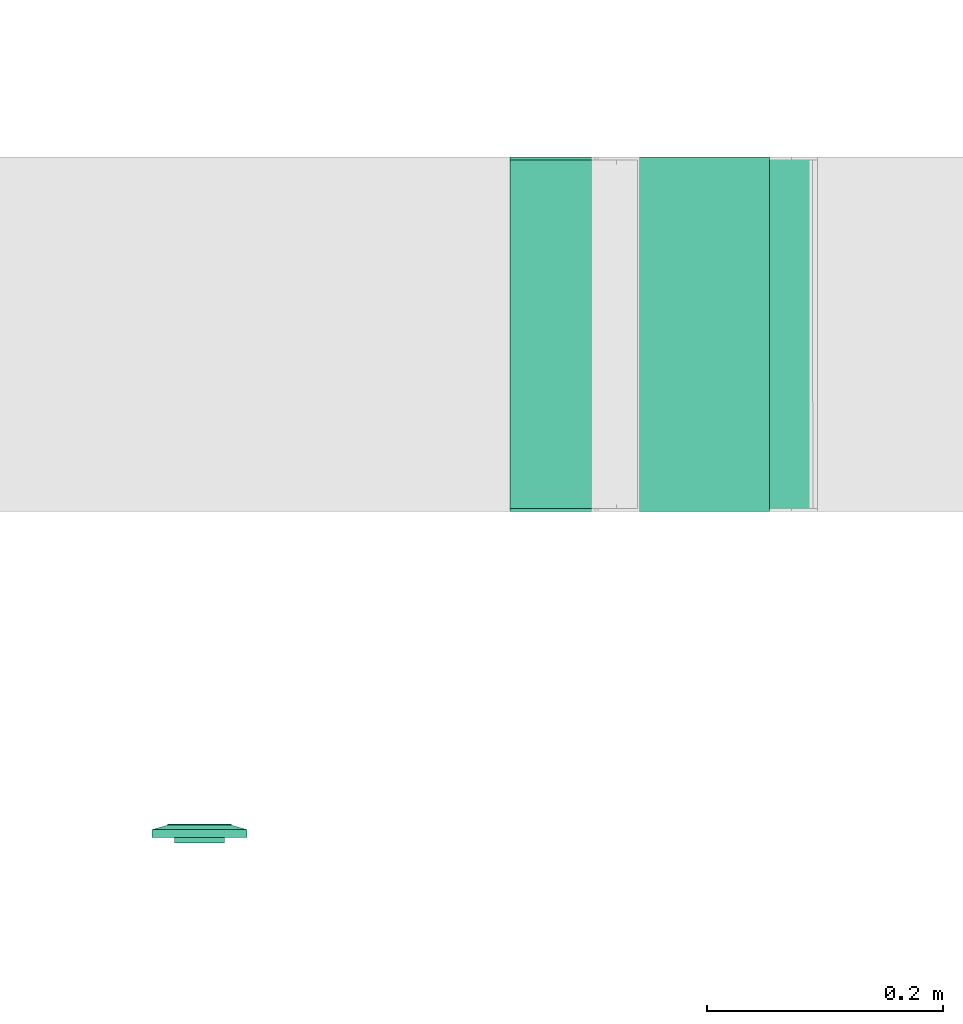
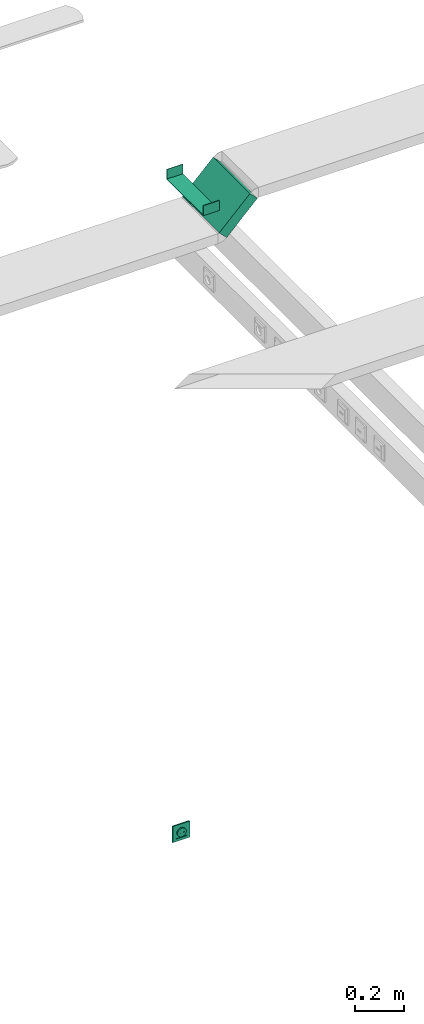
# One storey, part 35 of 166: 1 flow fitting, 1 flow segment, 1 flow terminal.
"""IFC2X3 building model written with IfcOpenShell, lengths in metres."""

from ifc_helpers import new_model, entity, si_unit, converted_unit, derived_unit, direction, frame, frame_2d, origin, place, context, subcontext, project, spatial, polyline, rectangle, outline, extrude, face_set, surface_model, source, transform, mapped, type_object, type_shapes, element, save


model = new_model("IFC2X3")

# Units and contexts
model_context = context("Model", 3, precision=1e-05, world=origin(), true_north=direction((6.12303176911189e-17, 1.0)))
body_context = subcontext(model_context, "Body", "Model", "MODEL_VIEW")
ifc_project = project(units=[si_unit("LENGTHUNIT", "METRE"), si_unit("AREAUNIT", "SQUARE_METRE"), si_unit("VOLUMEUNIT", "CUBIC_METRE"), converted_unit("PLANEANGLEUNIT", "DEGREE", entity("IfcRatioMeasure", 0.0174532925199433), si_unit("PLANEANGLEUNIT", "RADIAN"), dimensions=[0, 0, 0, 0, 0, 0, 0]), si_unit("MASSUNIT", "GRAM", prefix="KILO"), derived_unit("MASSDENSITYUNIT", [(si_unit("MASSUNIT", "GRAM", prefix="KILO"), 1), (si_unit("LENGTHUNIT", "METRE"), -3)]), si_unit("TIMEUNIT", "SECOND"), si_unit("FREQUENCYUNIT", "HERTZ"), si_unit("THERMODYNAMICTEMPERATUREUNIT", "DEGREE_CELSIUS"), derived_unit("THERMALTRANSMITTANCEUNIT", [(si_unit("MASSUNIT", "GRAM", prefix="KILO"), 1), (si_unit("THERMODYNAMICTEMPERATUREUNIT", "KELVIN"), -1), (si_unit("TIMEUNIT", "SECOND"), -3)]), derived_unit("VOLUMETRICFLOWRATEUNIT", [(si_unit("LENGTHUNIT", "METRE"), 3), (si_unit("TIMEUNIT", "SECOND"), -1)]), si_unit("ELECTRICCURRENTUNIT", "AMPERE"), si_unit("ELECTRICVOLTAGEUNIT", "VOLT"), si_unit("POWERUNIT", "WATT"), si_unit("FORCEUNIT", "NEWTON"), si_unit("ILLUMINANCEUNIT", "LUX"), si_unit("LUMINOUSFLUXUNIT", "LUMEN"), si_unit("LUMINOUSINTENSITYUNIT", "CANDELA"), derived_unit("USERDEFINED", [(si_unit("MASSUNIT", "GRAM", prefix="KILO"), -1), (si_unit("LENGTHUNIT", "METRE"), -2), (si_unit("TIMEUNIT", "SECOND"), 3), (si_unit("LUMINOUSFLUXUNIT", "LUMEN"), 1)]), derived_unit("LINEARVELOCITYUNIT", [(si_unit("LENGTHUNIT", "METRE"), 1), (si_unit("TIMEUNIT", "SECOND"), -1)]), si_unit("PRESSUREUNIT", "PASCAL"), derived_unit("USERDEFINED", [(si_unit("LENGTHUNIT", "METRE"), -2), (si_unit("MASSUNIT", "GRAM", prefix="KILO"), 1), (si_unit("TIMEUNIT", "SECOND"), -2)])], contexts=[model_context])

# Site, building, storey
site_placement = place(None, origin())
site = spatial("IfcSite", under=ifc_project, at=site_placement, Name="Default", CompositionType="ELEMENT")
building_placement = place(site_placement, origin())
building = spatial("IfcBuilding", under=site, at=building_placement, CompositionType="ELEMENT")
storey_placement = place(building_placement, frame((0.0, 0.0, 4.27)))
storey = spatial("IfcBuildingStorey", under=building, at=storey_placement, Name="01", CompositionType="ELEMENT", Elevation=4.27)

# Flow segment
cable_carrier_segment_type = type_object("IfcCableCarrierSegmentType", Name="Cable Tray with Fittings:Chemins de câbles en treillis_Chemins de câbles en treillis", PredefinedType="NOTDEFINED")
flow_segment_placement = place(storey_placement, origin())
element("IfcFlowSegment", 1, at=flow_segment_placement, inside=storey, type_object=cable_carrier_segment_type, Name="Cable Tray with Fittings:Chemins de câbles en treillis_Chemins de câbles en treillis", ObjectType="Cable Tray with Fittings:Chemins de câbles en treillis_Chemins de câbles en treillis", context=body_context, shape_type="SweptSolid", body=[
    extrude(rectangle(XDim=0.0500000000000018, YDim=0.205080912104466, at=frame_2d((3.81639164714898e-16, -3.85108611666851e-16), x_axis=(0.0, 1.0))), frame((32.0394098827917, -188.237883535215, 2.75298194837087), z_axis=(0.0, 1.0, 0.0), x_axis=(-0.70710678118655, 0.0, -0.707106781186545)), (0.0, 0.0, 1.0), 0.300000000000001),
])

# Flow terminal
light_fixture_type = type_object("IfcLightFixtureType", Name="Attente", PredefinedType="NOTDEFINED")
shared_shape_1 = source(origin(), body_context, "Body", "SurfaceModel", [
    surface_model("IfcFaceBasedSurfaceModel", [(0.00225000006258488, 0.00949633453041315, 0.0127499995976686), (0.0, 0.00949633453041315, 0.0104999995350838), (0.0, 0.0101656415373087, 0.0115376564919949), (0.0, 0.0101656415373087, 0.0139623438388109), (0.0, 0.00984531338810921, 0.0144589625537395), (0.0, 0.0102778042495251, 0.0121178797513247), (0.0, 0.0102778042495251, 0.0133821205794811), (0.0, 0.010399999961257, 0.0127499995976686), (0.0, 0.00949633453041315, 0.0149999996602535), (-0.00225000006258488, 0.00949633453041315, 0.0127499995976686), (0.0, 0.00984531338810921, 0.0110410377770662), (0.0, 0.00949633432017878, 0.0127499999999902), (-0.0022499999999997, 0.0094963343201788, 0.0127499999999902), (-0.00217333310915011, 0.00949633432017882, 0.0121676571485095), (-0.0019485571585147, 0.00949633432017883, 0.0116249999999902), (-0.00159099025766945, 0.00949633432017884, 0.0111590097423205), (-0.00112499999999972, 0.00949633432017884, 0.0108014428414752), (-0.000582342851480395, 0.00949633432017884, 0.0105766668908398), (0.0, 0.00949633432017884, 0.0104999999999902), (0.000582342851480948, 0.00949633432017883, 0.0105766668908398), (0.00112500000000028, 0.00949633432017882, 0.0108014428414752), (0.00159099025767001, 0.00949633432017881, 0.0111590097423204), (0.00194855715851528, 0.00949633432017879, 0.0116249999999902), (0.0021733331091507, 0.00949633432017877, 0.0121676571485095), (0.0022500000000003, 0.00949633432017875, 0.0127499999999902), (0.00217333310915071, 0.00949633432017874, 0.0133323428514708), (0.0019485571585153, 0.00949633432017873, 0.0138749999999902), (0.00159099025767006, 0.00949633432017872, 0.0143409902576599), (0.00112500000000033, 0.00949633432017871, 0.0146985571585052), (0.000582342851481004, 0.00949633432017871, 0.0149233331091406), (0.0, 0.00949633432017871, 0.0149999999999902), (-0.000582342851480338, 0.00949633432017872, 0.0149233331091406), (-0.00112499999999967, 0.00949633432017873, 0.0146985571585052), (-0.00159099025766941, 0.00949633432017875, 0.0143409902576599), (-0.00194855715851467, 0.00949633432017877, 0.0138749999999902), (-0.00217333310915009, 0.00949633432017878, 0.0133323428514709), (-0.00224999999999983, -0.00360000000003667, 0.0127499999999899), (-0.00217333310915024, -0.00360000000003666, 0.0121676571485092), (-0.00194855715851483, -0.00360000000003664, 0.0116249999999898), (-0.00159099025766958, -0.00360000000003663, 0.0111590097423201), (-0.00112499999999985, -0.00360000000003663, 0.0108014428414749), (-0.000582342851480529, -0.00360000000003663, 0.0105766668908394), (0.0, -0.00360000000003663, 0.0104999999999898), (0.000582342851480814, -0.00360000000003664, 0.0105766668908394), (0.00112500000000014, -0.00360000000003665, 0.0108014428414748), (0.00159099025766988, -0.00360000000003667, 0.0111590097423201), (0.00194855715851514, -0.00360000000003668, 0.0116249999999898), (0.00217333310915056, -0.0036000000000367, 0.0121676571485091), (0.00225000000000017, -0.00360000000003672, 0.0127499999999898), (0.00217333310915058, -0.00360000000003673, 0.0133323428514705), (0.00194855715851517, -0.00360000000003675, 0.0138749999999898), (0.00159099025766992, -0.00360000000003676, 0.0143409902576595), (0.00112500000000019, -0.00360000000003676, 0.0146985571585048), (0.00058234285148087, -0.00360000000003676, 0.0149233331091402), (0.0, -0.00360000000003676, 0.0149999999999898), (-0.000582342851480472, -0.00360000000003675, 0.0149233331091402), (-0.0011249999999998, -0.00360000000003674, 0.0146985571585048), (-0.00159099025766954, -0.00360000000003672, 0.0143409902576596), (-0.0019485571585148, -0.00360000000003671, 0.0138749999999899), (-0.00217333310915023, -0.00360000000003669, 0.0133323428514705), (-0.0270000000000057, 0.0113999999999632, 0.0269999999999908), (0.0269999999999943, 0.0113999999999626, 0.0269999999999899), (0.0269999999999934, 0.0113999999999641, -0.0270000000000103), (-0.0270000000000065, 0.0113999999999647, -0.0270000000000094), (0.0199999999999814, 0.0113999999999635, 0.0), (0.0193185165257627, 0.0113999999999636, -0.00517638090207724), (0.0173205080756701, 0.0113999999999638, -0.0100000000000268), (0.0141421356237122, 0.0113999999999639, -0.0141421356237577), (0.00999999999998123, 0.011399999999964, -0.0173205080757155), (0.00517638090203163, 0.0113999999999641, -0.019318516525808), (0.0, 0.0113999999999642, -0.0200000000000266), (-0.00517638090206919, 0.0113999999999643, -0.0193185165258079), (-0.0100000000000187, 0.0113999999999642, -0.0173205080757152), (-0.0141421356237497, 0.0113999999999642, -0.0141421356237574), (-0.0173205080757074, 0.0113999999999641, -0.0100000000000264), (-0.0193185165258, 0.011399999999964, -0.0051763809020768), (-0.0200000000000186, 0.0113999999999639, 0.0), (-0.0193185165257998, 0.0113999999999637, 0.00517638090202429), (-0.0173205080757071, 0.0113999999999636, 0.00999999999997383), (-0.0141421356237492, 0.0113999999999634, 0.0141421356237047), (-0.0100000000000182, 0.0113999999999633, 0.0173205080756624), (-0.00517638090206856, 0.0113999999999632, 0.0193185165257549), (0.0, 0.0113999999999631, 0.0199999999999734), (0.00517638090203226, 0.0113999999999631, 0.0193185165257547), (0.0099999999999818, 0.0113999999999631, 0.017320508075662), (0.0141421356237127, 0.0113999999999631, 0.0141421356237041), (0.0173205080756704, 0.0113999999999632, 0.00999999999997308), (0.0193185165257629, 0.0113999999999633, 0.00517638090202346), (-0.0270000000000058, 0.00199999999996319, 0.0269999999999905), (-0.0270000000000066, 0.00199999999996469, -0.0270000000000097), (0.0269999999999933, 0.00199999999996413, -0.0270000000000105), (0.0269999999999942, 0.00199999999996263, 0.0269999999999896), (-0.0210000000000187, 0.00199999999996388, 0.0), (-0.0202844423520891, 0.00199999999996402, -0.00543519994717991), (-0.0181865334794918, 0.00199999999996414, -0.0105000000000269), (-0.0148492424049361, 0.00199999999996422, -0.0148492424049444), (-0.0105000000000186, 0.00199999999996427, -0.0181865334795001), (-0.00543519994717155, 0.00199999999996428, -0.0202844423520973), (0.0, 0.00199999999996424, -0.0210000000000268), (0.00543519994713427, 0.00199999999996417, -0.0202844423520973), (0.0104999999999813, 0.00199999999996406, -0.0181865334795), (0.0148492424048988, 0.00199999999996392, -0.0148492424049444), (0.0181865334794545, 0.00199999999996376, -0.0105000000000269), (0.0202844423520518, 0.0019999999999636, -0.00543519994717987), (0.0209999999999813, 0.00199999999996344, 0.0), (0.0202844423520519, 0.0019999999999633, 0.0054351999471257), (0.0181865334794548, 0.00199999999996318, 0.0104999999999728), (0.0148492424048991, 0.00199999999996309, 0.0148492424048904), (0.0104999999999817, 0.00199999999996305, 0.0181865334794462), (0.00543519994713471, 0.00199999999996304, 0.0202844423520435), (0.0, 0.00199999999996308, 0.0209999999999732), (-0.00543519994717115, 0.00199999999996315, 0.0202844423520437), (-0.0105000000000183, 0.00199999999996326, 0.0181865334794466), (-0.0148492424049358, 0.0019999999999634, 0.014849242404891), (-0.0181865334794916, 0.00199999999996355, 0.0104999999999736), (-0.020284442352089, 0.00199999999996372, 0.00543519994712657), (-0.0200000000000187, -0.00360000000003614, 0.0), (-0.0193185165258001, -0.003600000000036, -0.00517638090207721), (-0.0173205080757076, -0.00360000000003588, -0.0100000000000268), (-0.0141421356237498, -0.0036000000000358, -0.0141421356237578), (-0.0100000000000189, -0.00360000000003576, -0.0173205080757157), (-0.00517638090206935, -0.00360000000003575, -0.0193185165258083), (0.0, -0.00360000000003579, -0.020000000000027), (0.00517638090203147, -0.00360000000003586, -0.0193185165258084), (0.00999999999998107, -0.00360000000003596, -0.0173205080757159), (0.0141421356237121, -0.00360000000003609, -0.0141421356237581), (0.0173205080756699, -0.00360000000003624, -0.0100000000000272), (0.0193185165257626, -0.0036000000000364, -0.00517638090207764), (0.0199999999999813, -0.00360000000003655, 0.0), (0.0193185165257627, -0.00360000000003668, 0.00517638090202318), (0.0173205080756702, -0.0036000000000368, 0.00999999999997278), (0.0141421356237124, -0.00360000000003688, 0.0141421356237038), (0.00999999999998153, -0.00360000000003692, 0.0173205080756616), (0.00517638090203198, -0.00360000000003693, 0.0193185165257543), (0.0, -0.0036000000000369, 0.019999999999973), (-0.00517638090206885, -0.00360000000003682, 0.0193185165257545), (-0.0100000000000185, -0.00360000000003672, 0.0173205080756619), (-0.0141421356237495, -0.00360000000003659, 0.0141421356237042), (-0.0173205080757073, -0.00360000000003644, 0.00999999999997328), (-0.0193185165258, -0.00360000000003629, 0.00517638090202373), (0.0123499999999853, -0.00360000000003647, 0.0), (0.0122562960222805, -0.00360000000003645, -0.000711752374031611), (0.0119815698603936, -0.00360000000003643, -0.00137499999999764), (0.0115445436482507, -0.00360000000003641, -0.00194454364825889), (0.0109749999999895, -0.00360000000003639, -0.00238156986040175), (0.0103117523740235, -0.00360000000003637, -0.00265629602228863), (0.00959999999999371, -0.00360000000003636, -0.00274999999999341), (0.00888824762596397, -0.00360000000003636, -0.00265629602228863), (0.00822499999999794, -0.00360000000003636, -0.00238156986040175), (0.00765545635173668, -0.00360000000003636, -0.00194454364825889), (0.00721843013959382, -0.00360000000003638, -0.00137499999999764), (0.00694370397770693, -0.00360000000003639, -0.000711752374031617), (0.00685000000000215, -0.00360000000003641, 0.0), (0.00694370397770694, -0.00360000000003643, 0.000711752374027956), (0.00721843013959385, -0.00360000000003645, 0.00137499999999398), (0.00765545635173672, -0.00360000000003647, 0.00194454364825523), (0.00822499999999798, -0.00360000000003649, 0.00238156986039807), (0.00888824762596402, -0.00360000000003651, 0.00265629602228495), (0.00959999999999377, -0.00360000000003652, 0.0027499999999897), (0.0103117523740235, -0.00360000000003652, 0.00265629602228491), (0.0109749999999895, -0.00360000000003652, 0.00238156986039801), (0.0115445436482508, -0.00360000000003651, 0.00194454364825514), (0.0119815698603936, -0.0036000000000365, 0.00137499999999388), (0.0122562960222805, -0.00360000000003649, 0.000711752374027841), (-0.00685000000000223, -0.00360000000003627, 0.0), (-0.00694370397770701, -0.00360000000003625, -0.000711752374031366), (-0.0072184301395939, -0.00360000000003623, -0.00137499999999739), (-0.00765545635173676, -0.00360000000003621, -0.00194454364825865), (-0.00822499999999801, -0.00360000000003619, -0.0023815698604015), (-0.00888824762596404, -0.00360000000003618, -0.00265629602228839), (-0.00959999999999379, -0.00360000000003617, -0.00274999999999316), (-0.0103117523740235, -0.00360000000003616, -0.00265629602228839), (-0.0109749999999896, -0.00360000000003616, -0.00238156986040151), (-0.0115445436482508, -0.00360000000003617, -0.00194454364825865), (-0.0119815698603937, -0.00360000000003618, -0.0013749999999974), (-0.0122562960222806, -0.0036000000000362, -0.000711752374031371), (-0.0123499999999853, -0.00360000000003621, 0.0), (-0.0122562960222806, -0.00360000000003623, 0.000711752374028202), (-0.0119815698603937, -0.00360000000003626, 0.00137499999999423), (-0.0115445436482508, -0.00360000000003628, 0.00194454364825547), (-0.0109749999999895, -0.00360000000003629, 0.00238156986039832), (-0.0103117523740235, -0.00360000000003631, 0.00265629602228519), (-0.00959999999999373, -0.00360000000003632, 0.00274999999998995), (-0.00888824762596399, -0.00360000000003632, 0.00265629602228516), (-0.00822499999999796, -0.00360000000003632, 0.00238156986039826), (-0.00765545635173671, -0.00360000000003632, 0.00194454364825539), (-0.00721843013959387, -0.0036000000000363, 0.00137499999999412), (-0.00694370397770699, -0.00360000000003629, 0.000711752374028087), (-0.0210000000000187, -0.00460000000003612, 0.0), (-0.0202844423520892, -0.00460000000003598, -0.00543519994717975), (-0.018186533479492, -0.00460000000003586, -0.0105000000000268), (-0.0148492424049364, -0.00460000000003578, -0.0148492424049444), (-0.0105000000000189, -0.00460000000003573, -0.0181865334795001), (-0.00543519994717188, -0.00460000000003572, -0.0202844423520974), (0.0, -0.00460000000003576, -0.021000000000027), (0.00543519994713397, -0.00460000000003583, -0.0202844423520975), (0.0104999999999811, -0.00460000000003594, -0.0181865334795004), (0.0148492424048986, -0.00460000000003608, -0.0148492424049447), (0.0181865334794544, -0.00460000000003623, -0.0105000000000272), (0.0202844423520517, -0.0046000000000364, -0.0054351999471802), (0.0209999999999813, -0.00460000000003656, 0.0), (0.0202844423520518, -0.0046000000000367, 0.00543519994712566), (0.0181865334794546, -0.00460000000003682, 0.0104999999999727), (0.014849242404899, -0.00460000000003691, 0.0148492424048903), (0.0104999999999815, -0.00460000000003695, 0.0181865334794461), (0.0054351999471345, -0.00460000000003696, 0.0202844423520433), (0.0, -0.00460000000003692, 0.020999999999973), (-0.00543519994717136, -0.00460000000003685, 0.0202844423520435), (-0.0105000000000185, -0.00460000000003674, 0.0181865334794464), (-0.014849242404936, -0.0046000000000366, 0.0148492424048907), (-0.0181865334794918, -0.00460000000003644, 0.0104999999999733), (-0.0202844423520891, -0.00460000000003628, 0.00543519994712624), (0.00685000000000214, -0.00460000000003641, 0.0), (0.00694370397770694, -0.00460000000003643, 0.000711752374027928), (0.00721843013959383, -0.00460000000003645, 0.00137499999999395), (0.0076554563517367, -0.00460000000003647, 0.0019445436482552), (0.00822499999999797, -0.00460000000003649, 0.00238156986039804), (0.00888824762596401, -0.0046000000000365, 0.00265629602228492), (0.00959999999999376, -0.00460000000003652, 0.00274999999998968), (0.0103117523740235, -0.00460000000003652, 0.00265629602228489), (0.0109749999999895, -0.00460000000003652, 0.00238156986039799), (0.0115445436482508, -0.00460000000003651, 0.00194454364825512), (0.0119815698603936, -0.0046000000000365, 0.00137499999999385), (0.0122562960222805, -0.00460000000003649, 0.000711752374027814), (0.0123499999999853, -0.00460000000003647, 0.0), (0.0122562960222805, -0.00460000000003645, -0.00071175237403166), (0.0119815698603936, -0.00460000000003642, -0.00137499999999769), (0.0115445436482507, -0.0046000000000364, -0.00194454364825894), (0.0109749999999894, -0.00460000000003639, -0.00238156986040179), (0.0103117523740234, -0.00460000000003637, -0.00265629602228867), (0.00959999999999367, -0.00460000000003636, -0.00274999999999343), (0.00888824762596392, -0.00460000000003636, -0.00265629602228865), (0.00822499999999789, -0.00460000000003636, -0.00238156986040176), (0.00765545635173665, -0.00460000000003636, -0.00194454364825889), (0.00721843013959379, -0.00460000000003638, -0.00137499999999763), (0.00694370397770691, -0.00460000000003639, -0.0007117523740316), (-0.0123499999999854, -0.00460000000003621, 0.0), (-0.0122562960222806, -0.00460000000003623, 0.000711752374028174), (-0.0119815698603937, -0.00460000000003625, 0.0013749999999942), (-0.0115445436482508, -0.00460000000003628, 0.00194454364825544), (-0.0109749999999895, -0.00460000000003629, 0.00238156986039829), (-0.0103117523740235, -0.00460000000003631, 0.00265629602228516), (-0.00959999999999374, -0.00460000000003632, 0.00274999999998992), (-0.008888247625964, -0.00460000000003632, 0.00265629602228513), (-0.00822499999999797, -0.00460000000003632, 0.00238156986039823), (-0.00765545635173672, -0.00460000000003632, 0.00194454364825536), (-0.00721843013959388, -0.0046000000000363, 0.0013749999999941), (-0.006943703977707, -0.00460000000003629, 0.000711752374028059), (-0.00685000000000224, -0.00460000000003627, 0.0), (-0.00694370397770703, -0.00460000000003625, -0.000711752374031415), (-0.00721843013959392, -0.00460000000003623, -0.00137499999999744), (-0.00765545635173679, -0.00460000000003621, -0.00194454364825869), (-0.00822499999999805, -0.00460000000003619, -0.00238156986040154), (-0.00888824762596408, -0.00460000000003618, -0.00265629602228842), (-0.00959999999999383, -0.00460000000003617, -0.00274999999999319), (-0.0103117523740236, -0.00460000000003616, -0.00265629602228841), (-0.0109749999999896, -0.00460000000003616, -0.00238156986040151), (-0.0115445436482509, -0.00460000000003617, -0.00194454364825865), (-0.0119815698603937, -0.00460000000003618, -0.00137499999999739), (-0.0122562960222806, -0.00460000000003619, -0.000711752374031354), (-0.0403499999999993, 0.00659999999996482, 0.0403499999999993), (-0.0403500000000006, 0.00659999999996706, -0.0403500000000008), (0.0403499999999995, 0.00659999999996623, -0.0403500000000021), (0.0403500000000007, 0.00659999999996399, 0.040349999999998), (-0.0269999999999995, 0.00659999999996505, 0.026999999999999), (0.0270000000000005, 0.0065999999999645, 0.0269999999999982), (0.0269999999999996, 0.006599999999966, -0.0270000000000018), (-0.0270000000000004, 0.00659999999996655, -0.027000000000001), (-0.0269999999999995, 0.0103999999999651, 0.0269999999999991), (0.0270000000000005, 0.0103999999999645, 0.0269999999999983), (0.0269999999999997, 0.010399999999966, -0.0270000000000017), (-0.0270000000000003, 0.0103999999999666, -0.0270000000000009), (-0.0403499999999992, 0.00659999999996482, 0.0403499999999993), (-0.0403500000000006, 0.00659999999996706, -0.0403500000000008), (0.0403499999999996, 0.00659999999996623, -0.0403500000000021), (0.0403500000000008, 0.00659999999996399, 0.040349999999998), (0.0270000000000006, 0.0065999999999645, 0.0269999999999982), (0.0269999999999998, 0.006599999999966, -0.0270000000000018), (-0.0270000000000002, 0.00659999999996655, -0.027000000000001), (-0.0269999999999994, 0.00659999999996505, 0.026999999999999), (-0.0403499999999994, 0.0, 0.0403499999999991), (-0.0403500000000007, 0.0, -0.040350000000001), (0.0403499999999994, 0.0, -0.0403500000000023), (0.0403500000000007, 0.0, 0.0403499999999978), (-0.0269999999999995, 0.0, 0.0269999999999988), (0.0270000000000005, 0.0, 0.026999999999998), (0.0269999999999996, 0.0, -0.027000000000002), (-0.0270000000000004, 0.0, -0.0270000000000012)], [face_set([[[0, 1, 2]], [[3, 4, 2, 5]], [[6, 3, 5, 7]], [[2, 4, 0]], [[4, 8, 0]], [[3, 9, 8]], [[1, 9, 10]], [[2, 3, 6, 7]], [[3, 10, 9]], [[2, 10, 3]], [[11, 1, 0, 8]], [[11, 8, 9, 1]]]), face_set([[[12, 13, 14, 15, 16, 17, 18, 19, 20, 21, 22, 23, 24, 25, 26, 27, 28, 29, 30, 31, 32, 33, 34, 35]], [[36, 37, 38, 39, 40, 41, 42, 43, 44, 45, 46, 47, 48, 49, 50, 51, 52, 53, 54, 55, 56, 57, 58, 59]], [[48, 47, 23, 24]], [[47, 46, 22, 23]], [[45, 44, 20, 21]], [[46, 45, 21, 22]], [[44, 43, 19, 20]], [[18, 19, 43, 42]], [[42, 41, 17, 18]], [[41, 40, 16, 17]], [[39, 38, 14, 15]], [[40, 39, 15, 16]], [[38, 37, 13, 14]], [[12, 13, 37, 36]], [[36, 59, 35, 12]], [[59, 58, 34, 35]], [[57, 56, 32, 33]], [[58, 57, 33, 34]], [[56, 55, 31, 32]], [[30, 31, 55, 54]], [[54, 53, 29, 30]], [[53, 52, 28, 29]], [[51, 50, 26, 27]], [[52, 51, 27, 28]], [[50, 49, 25, 26]], [[24, 25, 49, 48]]]), face_set([[[60, 61, 62, 63], [64, 65, 66, 67, 68, 69, 70, 71, 72, 73, 74, 75, 76, 77, 78, 79, 80, 81, 82, 83, 84, 85, 86, 87]], [[88, 89, 90, 91], [92, 93, 94, 95, 96, 97, 98, 99, 100, 101, 102, 103, 104, 105, 106, 107, 108, 109, 110, 111, 112, 113, 114, 115]], [[61, 60, 88, 91]], [[62, 61, 91, 90]], [[63, 62, 90, 89]], [[60, 63, 89, 88]], [[116, 117, 118, 119, 120, 121, 122, 123, 124, 125, 126, 127, 128, 129, 130, 131, 132, 133, 134, 135, 136, 137, 138, 139], [140, 141, 142, 143, 144, 145, 146, 147, 148, 149, 150, 151, 152, 153, 154, 155, 156, 157, 158, 159, 160, 161, 162, 163], [164, 165, 166, 167, 168, 169, 170, 171, 172, 173, 174, 175, 176, 177, 178, 179, 180, 181, 182, 183, 184, 185, 186, 187]], [[64, 128, 127, 65]], [[65, 127, 126, 66]], [[67, 125, 124, 68]], [[66, 126, 125, 67]], [[68, 124, 123, 69]], [[122, 70, 69, 123]], [[70, 122, 121, 71]], [[71, 121, 120, 72]], [[73, 119, 118, 74]], [[72, 120, 119, 73]], [[74, 118, 117, 75]], [[116, 76, 75, 117]], [[76, 116, 139, 77]], [[77, 139, 138, 78]], [[79, 137, 136, 80]], [[78, 138, 137, 79]], [[80, 136, 135, 81]], [[134, 82, 81, 135]], [[82, 134, 133, 83]], [[83, 133, 132, 84]], [[84, 132, 131, 85]], [[85, 131, 130, 86]], [[130, 129, 87, 86]], [[64, 87, 129, 128]], [[188, 189, 190, 191, 192, 193, 194, 195, 196, 197, 198, 199, 200, 201, 202, 203, 204, 205, 206, 207, 208, 209, 210, 211], [212, 213, 214, 215, 216, 217, 218, 219, 220, 221, 222, 223, 224, 225, 226, 227, 228, 229, 230, 231, 232, 233, 234, 235], [236, 237, 238, 239, 240, 241, 242, 243, 244, 245, 246, 247, 248, 249, 250, 251, 252, 253, 254, 255, 256, 257, 258, 259]], [[200, 199, 103, 104]], [[199, 198, 102, 103]], [[197, 196, 100, 101]], [[198, 197, 101, 102]], [[196, 195, 99, 100]], [[98, 99, 195, 194]], [[194, 193, 97, 98]], [[193, 192, 96, 97]], [[191, 190, 94, 95]], [[192, 191, 95, 96]], [[190, 189, 93, 94]], [[92, 93, 189, 188]], [[188, 211, 115, 92]], [[211, 210, 114, 115]], [[209, 208, 112, 113]], [[210, 209, 113, 114]], [[208, 207, 111, 112]], [[110, 111, 207, 206]], [[206, 205, 109, 110]], [[205, 204, 108, 109]], [[203, 202, 106, 107]], [[204, 203, 107, 108]], [[202, 201, 105, 106]], [[104, 105, 201, 200]], [[141, 225, 226, 142]], [[140, 224, 225, 141]], [[144, 228, 229, 145]], [[143, 227, 228, 144]], [[142, 226, 227, 143]], [[230, 146, 145, 229]], [[149, 233, 232, 148]], [[148, 232, 231, 147]], [[152, 212, 235, 151]], [[151, 235, 234, 150]], [[150, 234, 233, 149]], [[146, 230, 231, 147]], [[154, 214, 213, 153]], [[153, 213, 212, 152]], [[157, 217, 216, 156]], [[156, 216, 215, 155]], [[155, 215, 214, 154]], [[218, 158, 157, 217]], [[160, 220, 221, 161]], [[159, 219, 220, 160]], [[163, 223, 224, 140]], [[162, 222, 223, 163]], [[161, 221, 222, 162]], [[158, 218, 219, 159]], [[166, 250, 249, 165]], [[165, 249, 248, 164]], [[169, 253, 252, 168]], [[168, 252, 251, 167]], [[167, 251, 250, 166]], [[254, 170, 169, 253]], [[172, 256, 257, 173]], [[171, 255, 256, 172]], [[175, 259, 236, 176]], [[174, 258, 259, 175]], [[173, 257, 258, 174]], [[170, 254, 255, 171]], [[177, 237, 238, 178]], [[176, 236, 237, 177]], [[180, 240, 241, 181]], [[179, 239, 240, 180]], [[178, 238, 239, 179]], [[242, 182, 181, 241]], [[185, 245, 244, 184]], [[184, 244, 243, 183]], [[164, 248, 247, 187]], [[187, 247, 246, 186]], [[186, 246, 245, 185]], [[182, 242, 243, 183]]]), face_set([[[260, 261, 262, 263], [264, 265, 266, 267]], [[260, 268, 269, 263]], [[263, 269, 270, 262]], [[262, 270, 271, 261]], [[261, 271, 268, 260]], [[264, 265, 269, 268]], [[265, 266, 270, 269]], [[266, 267, 271, 270]], [[268, 271, 267, 264]]]), face_set([[[272, 273, 274, 275], [276, 277, 278, 279]], [[280, 281, 282, 283], [284, 285, 286, 287]], [[275, 272, 280, 283]], [[274, 275, 283, 282]], [[273, 274, 282, 281]], [[272, 273, 281, 280]], [[284, 285, 276, 279]], [[285, 286, 277, 276]], [[286, 287, 278, 277]], [[279, 278, 287, 284]]])]),
])
type_shapes(light_fixture_type, [shared_shape_1])
flow_terminal_placement = place(storey_placement, frame((31.612145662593, -188.513469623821, 0.0)))
element("IfcFlowTerminal", 2, at=flow_terminal_placement, inside=storey, type_object=light_fixture_type, Name="INT_Attente électrique:Attente", ObjectType="INT_Attente électrique:Attente", context=body_context, shape_type="MappedRepresentation", body=[
    mapped(shared_shape_1, transform((0.0, 0.0, 0.0), scale=1.0)),
])

# Flow fitting
cable_carrier_fitting_type = type_object("IfcCableCarrierFittingType", Name="E_Connection_CA_Generic_MEPcontent", PredefinedType="NOTDEFINED")
shared_shape_2 = source(origin(), body_context, "Body", "SweptSolid", [
    extrude(outline(polyline([(-0.149999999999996, -0.0256349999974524), (0.149999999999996, -0.0256349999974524), (0.149999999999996, 0.0243650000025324), (0.147460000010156, 0.0243650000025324), (0.147460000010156, -0.0230950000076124), (-0.147460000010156, -0.0230950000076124), (-0.147460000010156, 0.0243650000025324), (-0.149999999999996, 0.0243650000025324), (-0.149999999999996, -0.0256349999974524)])), frame((0.0, 0.0, 0.000634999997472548), z_axis=(1.0, 0.0, 0.0), x_axis=(0.0, 1.0, 0.0)), (0.0, 0.0, 1.0), 0.0749999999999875),
])
type_shapes(cable_carrier_fitting_type, [shared_shape_2])
flow_fitting_placement = place(storey_placement, frame((31.9497393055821, -188.087883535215, 2.83499451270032), z_axis=(-1.23590478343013e-06, 0.0, 1.0), x_axis=(-1.0, 0.0, -1.23590478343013e-06)))
element("IfcFlowFitting", 3, at=flow_fitting_placement, inside=storey, type_object=cable_carrier_fitting_type, Name="E_Connection_CA_Generic_MEPcontent:E_Connection_CA_Generic_MEPcontent", ObjectType="E_Connection_CA_Generic_MEPcontent:E_Connection_CA_Generic_MEPcontent", context=body_context, shape_type="MappedRepresentation", body=[
    mapped(shared_shape_2, transform((0.0, 0.0, 0.0), scale=1.0)),
])

save(model, "model.ifc")
